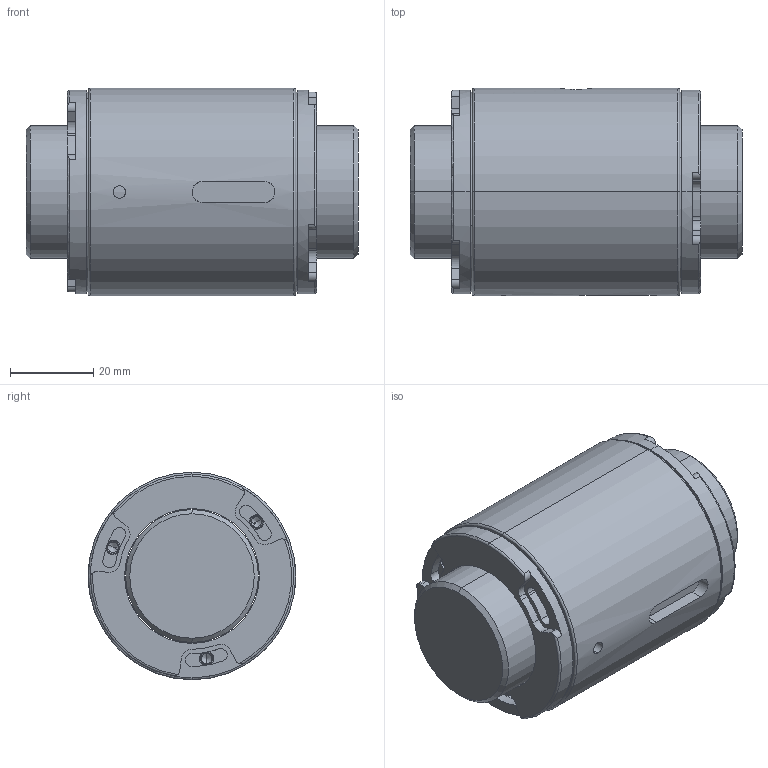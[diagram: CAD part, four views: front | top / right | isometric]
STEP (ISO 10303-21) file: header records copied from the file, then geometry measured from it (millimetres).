
FILE_DESCRIPTION (( 'STEP AP203' ), '1' );
FILE_NAME ('SCHR03210C1-C.STEP', '2020-06-17T08:51:42', ( '' ), ( '' ), 'SwSTEP 2.0', 'SolidWorks 2013', '' );
FILE_SCHEMA (( 'CONFIG_CONTROL_DESIGN' ));
Length unit declared in the file: millimetre
Products named in the file (1): SCHR03210C1-C
Bounding box: 80 x 50 x 50 mm (x, y, z)
Volume: 127150.1 mm3; surface area: 28736.1 mm2
Topology: 2 solids, 2 shells, 216 faces, 544 edges, 340 vertices
Faces by surface type: cylinder 114, plane 62, cone 28, torus 12
Entity records: 6869 total; most frequent: CARTESIAN_POINT 1409, DIRECTION 1268, ORIENTED_EDGE 1064, AXIS2_PLACEMENT_3D 539, EDGE_CURVE 532, VERTEX_POINT 340, CIRCLE 322, EDGE_LOOP 240
